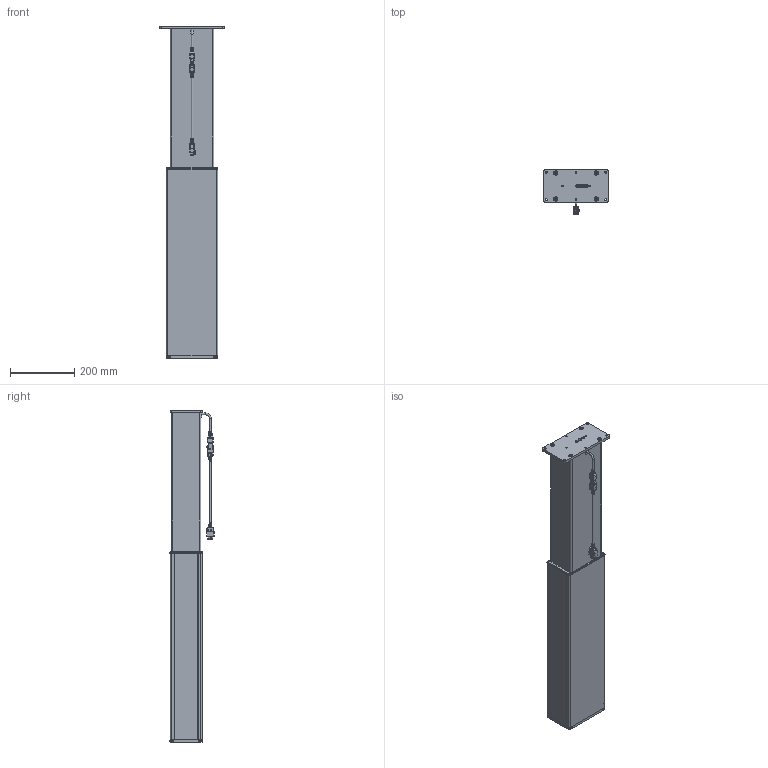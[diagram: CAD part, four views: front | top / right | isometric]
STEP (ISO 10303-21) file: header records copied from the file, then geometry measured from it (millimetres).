
FILE_DESCRIPTION(/* description */ ('Unknown'),/* implementation_level */ '2;1');
FILE_NAME(/* name */ '911.00104_01-ausgefahren',/* time_stamp */ '2026-03-27T07:55:11+01:00',/* author */ ('Unknown'),/* organization */ ('Unknown'),/* preprocessor_version */ 'ST-DEVELOPER v20',/* originating_system */ 'Solid Edge',/* authorisation */ 'Unknown');
FILE_SCHEMA (('AUTOMOTIVE_DESIGN {1 0 10303 214 3 1 1}'));
Products named in the file (38): 911.00104; 126.00191; 119.00587; 119.00576; 126.00193; 124.00201; 3120_01-01_3D_0; 3120_02-02_3D_0; 3130_48-04_3D_0; HK-1210_0; DIN7380-M5X8-BR-M_0; 3121_17-01_3D_0; 3120_13-01_3D_0; WN1452-K40X14_0; 61801-ZZ_0; 3121_76-05_3D_0; 6001-ZZ_0; 115.00200; 125.00260; 125.00261; 142.00012; 110.00113; 125.00353; 142.00242; 125.00259; 142.00243; 127.00455; 125.00364; 142.00331; 142.00303; 142.00342; 142.00241; 142.00154; 142.00039; 128.00078; Kabel Motor Sx; 124.00151; 119.00575
Assembly tree (51 placements, depth 3):
  911.00104
    126.00191
    119.00587  x2
    119.00576  x2
    126.00193
    124.00201
      3120_01-01_3D_0
      3120_02-02_3D_0
      3130_48-04_3D_0
      HK-1210_0
      DIN7380-M5X8-BR-M_0  x2
      3121_17-01_3D_0
      3120_13-01_3D_0
      WN1452-K40X14_0  x4
      61801-ZZ_0
      3121_76-05_3D_0
      6001-ZZ_0
    115.00200
      125.00260
      125.00261
      142.00012
    110.00113
      125.00353
      142.00242  x2
      125.00259
      142.00243
    127.00455
    125.00364
    142.00331
    142.00303  x4
    142.00342
    142.00241  x2
    142.00154  x4
    142.00039
    128.00078
    Kabel Motor Sx
    124.00151
    119.00575
Bounding box: 200 x 137.17 x 1030 mm (x, y, z)
Volume: 3274537 mm3; surface area: 1733720.4 mm2
Topology: 70 solids, 71 shells, 3417 faces, 8552 edges, 5401 vertices
Faces by surface type: plane 1431, cylinder 962, torus 473, cone 285, bspline 182, sphere 84
Full cylindrical faces by diameter (mm): 1.5 x6, 1.82 x6, 2 x4, 2.7 x6, 2.8 x1, 3.464 x2, 3.5 x2, 3.6 x4, 3.621 x4, 3.65 x2, 3.94 x1, 4 x75, 4.1 x5, 4.134 x7, 4.2 x2, 4.567 x2, 4.917 x4, 5 x19, 5.1 x2, 5.5 x2, 6 x11, 6.02 x1, 6.2 x4, 6.4 x1, 6.5 x4, 6.6 x4, 6.647 x5, 6.8 x2, 6.9 x1, 7 x2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
Entity records: 102328 total; most frequent: CARTESIAN_POINT 24435, DIRECTION 13880, ORIENTED_EDGE 13338, EDGE_CURVE 6669, AXIS2_PLACEMENT_3D 5274, VERTEX_POINT 4468, FACE_BOUND 3547, EDGE_LOOP 3520
